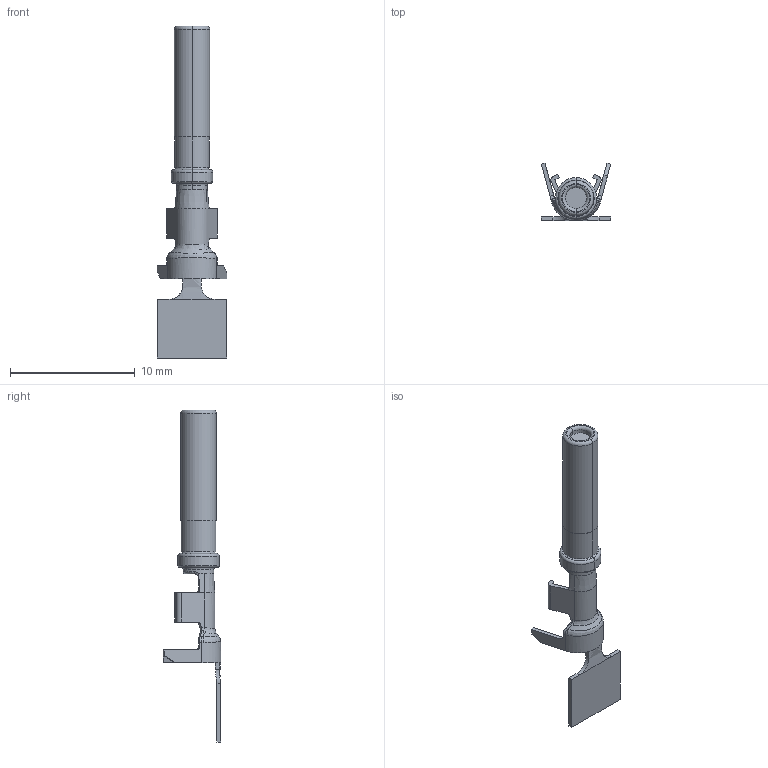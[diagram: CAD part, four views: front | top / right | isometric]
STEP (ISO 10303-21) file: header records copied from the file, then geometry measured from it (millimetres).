
FILE_DESCRIPTION((''),'2;1');
FILE_NAME('C-1062-14-0122','2014-05-14T',('workeradm'),('Tyco Electronics Ltd.'),'PRO/ENGINEER BY PARAMETRIC TECHNOLOGY CORPORATION, 2013050','PRO/ENGINEER BY PARAMETRIC TECHNOLOGY CORPORATION, 2013050','');
FILE_SCHEMA(('AUTOMOTIVE_DESIGN { 1 0 10303 214 1 1 1 1 }'));
Length unit declared in the file: millimetre
Products named in the file (1): C-1062-14-0122
Bounding box: 5.54 x 4.6 x 26.57 mm (x, y, z)
Volume: 102.8 mm3; surface area: 304 mm2
Topology: 1 solids, 1 shells, 129 faces, 327 edges, 204 vertices
Faces by surface type: plane 46, bspline 42, cylinder 24, torus 13, cone 4
Entity records: 5851 total; most frequent: CARTESIAN_POINT 2809, ORIENTED_EDGE 654, DIRECTION 518, EDGE_CURVE 327, VERTEX_POINT 204, AXIS2_PLACEMENT_3D 186, VECTOR 146, LINE 146
